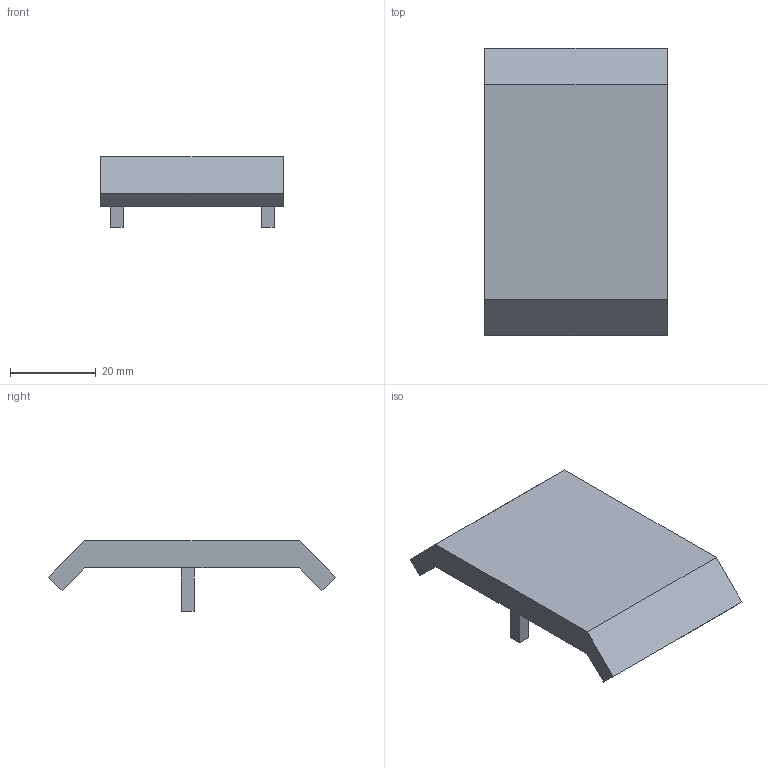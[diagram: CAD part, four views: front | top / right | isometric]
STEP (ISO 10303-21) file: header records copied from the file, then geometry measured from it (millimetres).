
FILE_DESCRIPTION (( 'STEP AP203' ), '1' );
FILE_NAME ('1036cap.STEP', '2016-03-22T15:00:02', ( '' ), ( '' ), 'SwSTEP 2.0', 'SolidWorks 2014', '' );
FILE_SCHEMA (( 'CONFIG_CONTROL_DESIGN' ));
Length unit declared in the file: millimetre
Products named in the file (1): 1036cap
Bounding box: 42.5 x 67 x 16.5 mm (x, y, z)
Volume: 11776.6 mm3; surface area: 8049 mm2
Topology: 1 solids, 1 shells, 26 faces, 66 edges, 44 vertices
Faces by surface type: plane 26
Entity records: 847 total; most frequent: CARTESIAN_POINT 137, ORIENTED_EDGE 132, DIRECTION 120, VECTOR 66, EDGE_CURVE 66, LINE 66, VERTEX_POINT 44, EDGE_LOOP 28
